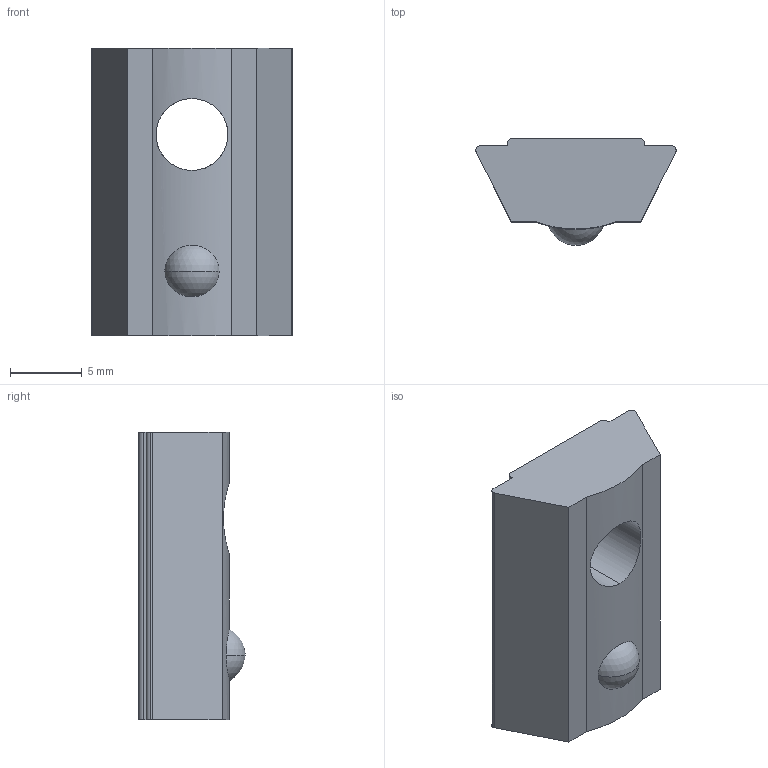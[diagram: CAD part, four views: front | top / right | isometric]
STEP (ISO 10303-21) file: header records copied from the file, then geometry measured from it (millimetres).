
FILE_DESCRIPTION (( 'STEP AP203' ), '1' );
FILE_NAME ('LIMA-LHNR6-104545.STEP', '2018-03-15T12:19:05', ( '' ), ( '' ), 'SwSTEP 2.0', 'SolidWorks 2013', '' );
FILE_SCHEMA (( 'CONFIG_CONTROL_DESIGN' ));
Length unit declared in the file: millimetre
Products named in the file (1): LIMA-LHNR6-104545
Bounding box: 13.93 x 7.4 x 20 mm (x, y, z)
Volume: 1248.9 mm3; surface area: 903 mm2
Topology: 1 solids, 1 shells, 21 faces, 55 edges, 37 vertices
Faces by surface type: plane 11, cylinder 8, sphere 2
Entity records: 840 total; most frequent: CARTESIAN_POINT 228, DIRECTION 111, ORIENTED_EDGE 110, EDGE_CURVE 55, AXIS2_PLACEMENT_3D 38, VERTEX_POINT 37, VECTOR 35, LINE 35
